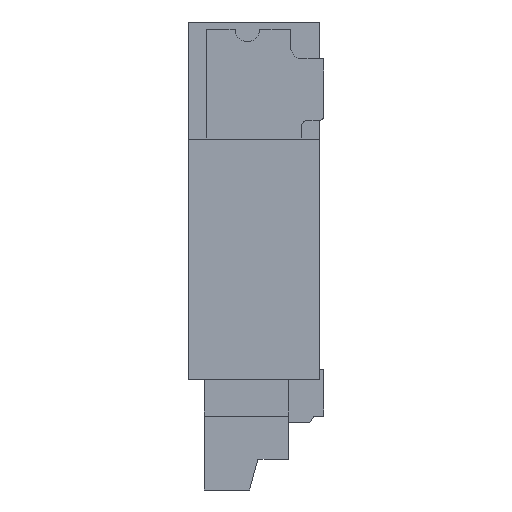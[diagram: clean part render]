
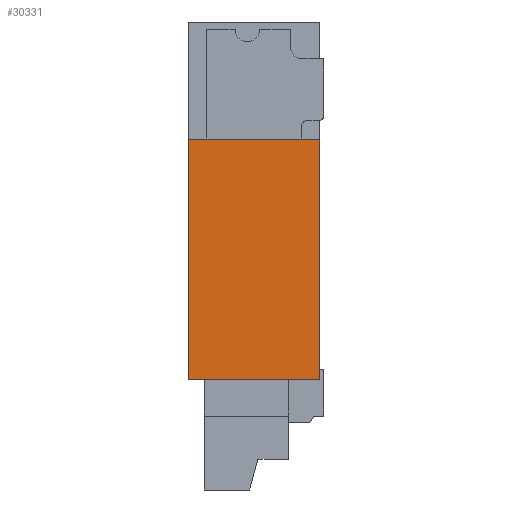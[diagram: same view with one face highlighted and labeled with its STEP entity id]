
A CAD part, left-side view. The second image highlights one B-rep face of the part: STEP entity #30331.
In plain terms, the highlighted planar face has unit normal (-1, 0, 0).
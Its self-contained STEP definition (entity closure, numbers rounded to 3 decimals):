
#1698 = VECTOR ( 'NONE', #2174, 1000. ) ;
#2174 = DIRECTION ( 'NONE',  ( 0., 0., -1. ) ) ;
#5783 = CARTESIAN_POINT ( 'NONE',  ( -7., 1., 0.95 ) ) ;
#9690 = DIRECTION ( 'NONE',  ( 0., 0., 1. ) ) ;
#9964 = DIRECTION ( 'NONE',  ( 0., 0., 1. ) ) ;
#13417 = VECTOR ( 'NONE', #33629, 1000. ) ;
#14300 = FACE_OUTER_BOUND ( 'NONE', #17533, .T. ) ;
#14494 = ORIENTED_EDGE ( 'NONE', *, *, #56059, .F. ) ;
#16704 = CARTESIAN_POINT ( 'NONE',  ( -7., 1.1, 0.95 ) ) ;
#17533 = EDGE_LOOP ( 'NONE', ( #52400, #14494, #22839, #42013 ) ) ;
#18548 = VERTEX_POINT ( 'NONE', #16704 ) ;
#18654 = PLANE ( 'NONE',  #39037 ) ;
#19531 = CARTESIAN_POINT ( 'NONE',  ( -7., 1.1, -1. ) ) ;
#20480 = EDGE_CURVE ( 'NONE', #54974, #33644, #42890, .T. ) ;
#20677 = VERTEX_POINT ( 'NONE', #44024 ) ;
#20802 = CARTESIAN_POINT ( 'NONE',  ( -7., 1.1, -1. ) ) ;
#22839 = ORIENTED_EDGE ( 'NONE', *, *, #26370, .F. ) ;
#23506 = EDGE_CURVE ( 'NONE', #20677, #33644, #42978, .T. ) ;
#26149 = CARTESIAN_POINT ( 'NONE',  ( -7., 0.035, -1. ) ) ;
#26370 = EDGE_CURVE ( 'NONE', #54974, #18548, #49903, .T. ) ;
#26482 = CARTESIAN_POINT ( 'NONE',  ( -7., 1., 0.95 ) ) ;
#30331 = ADVANCED_FACE ( 'NONE', ( #14300 ), #18654, .F. ) ;
#32676 = LINE ( 'NONE', #5783, #50561 ) ;
#33629 = DIRECTION ( 'NONE',  ( 0., -1., 0. ) ) ;
#33644 = VERTEX_POINT ( 'NONE', #26149 ) ;
#37030 = DIRECTION ( 'NONE',  ( 0., -1., 0. ) ) ;
#38351 = CARTESIAN_POINT ( 'NONE',  ( -7., 0.035, 0.95 ) ) ;
#39037 = AXIS2_PLACEMENT_3D ( 'NONE', #26482, #44111, #9964 ) ;
#42013 = ORIENTED_EDGE ( 'NONE', *, *, #20480, .T. ) ;
#42890 = LINE ( 'NONE', #56748, #13417 ) ;
#42978 = LINE ( 'NONE', #38351, #1698 ) ;
#44024 = CARTESIAN_POINT ( 'NONE',  ( -7., 0.035, 0.95 ) ) ;
#44111 = DIRECTION ( 'NONE',  ( 1., 0., 0. ) ) ;
#49903 = LINE ( 'NONE', #19531, #53564 ) ;
#50561 = VECTOR ( 'NONE', #37030, 1000. ) ;
#52400 = ORIENTED_EDGE ( 'NONE', *, *, #23506, .F. ) ;
#53564 = VECTOR ( 'NONE', #9690, 1000. ) ;
#54974 = VERTEX_POINT ( 'NONE', #20802 ) ;
#56059 = EDGE_CURVE ( 'NONE', #18548, #20677, #32676, .T. ) ;
#56748 = CARTESIAN_POINT ( 'NONE',  ( -7., 1., -1. ) ) ;
